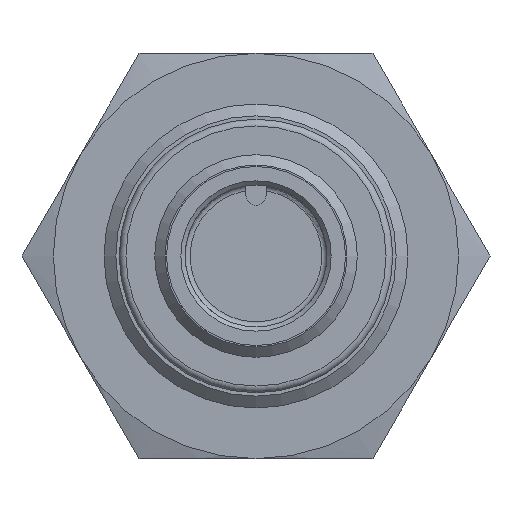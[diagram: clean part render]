
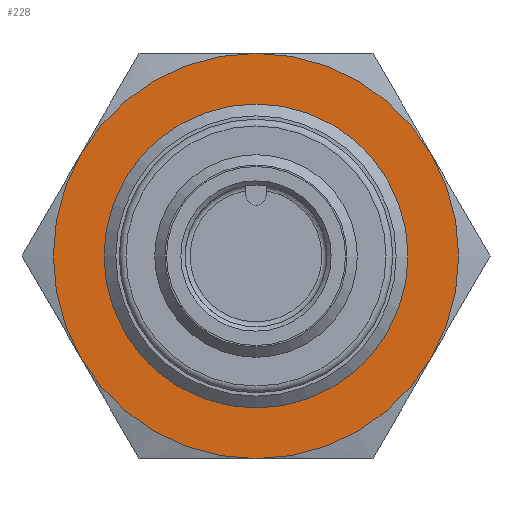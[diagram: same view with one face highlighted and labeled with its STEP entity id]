
A CAD part, left-side view. The second image highlights one B-rep face of the part: STEP entity #228.
In plain terms, the highlighted planar face has unit normal (-1, 0, 0).
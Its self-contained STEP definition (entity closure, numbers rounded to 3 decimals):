
#228 = ADVANCED_FACE( '', ( #369, #370 ), #371, .F. );
#369 = FACE_OUTER_BOUND( '', #522, .T. );
#370 = FACE_BOUND( '', #523, .T. );
#371 = PLANE( '', #524 );
#522 = EDGE_LOOP( '', ( #819, #820, #821, #822, #823, #824 ) );
#523 = EDGE_LOOP( '', ( #825 ) );
#524 = AXIS2_PLACEMENT_3D( '', #826, #827, #828 );
#819 = ORIENTED_EDGE( '', *, *, #979, .F. );
#820 = ORIENTED_EDGE( '', *, *, #980, .F. );
#821 = ORIENTED_EDGE( '', *, *, #981, .F. );
#822 = ORIENTED_EDGE( '', *, *, #977, .F. );
#823 = ORIENTED_EDGE( '', *, *, #975, .F. );
#824 = ORIENTED_EDGE( '', *, *, #976, .F. );
#825 = ORIENTED_EDGE( '', *, *, #967, .T. );
#826 = CARTESIAN_POINT( '', ( 0., 0., 0. ) );
#827 = DIRECTION( '', ( 1., 0., 0. ) );
#828 = DIRECTION( '', ( 0., 0., -1. ) );
#967 = EDGE_CURVE( '', #1113, #1113, #1114, .T. );
#975 = EDGE_CURVE( '', #1086, #1104, #1125, .T. );
#976 = EDGE_CURVE( '', #1095, #1086, #1126, .T. );
#977 = EDGE_CURVE( '', #1104, #1127, #1128, .T. );
#979 = EDGE_CURVE( '', #1130, #1095, #1131, .T. );
#980 = EDGE_CURVE( '', #1132, #1130, #1133, .T. );
#981 = EDGE_CURVE( '', #1127, #1132, #1134, .T. );
#1086 = VERTEX_POINT( '', #1537 );
#1095 = VERTEX_POINT( '', #1567 );
#1104 = VERTEX_POINT( '', #1597 );
#1113 = VERTEX_POINT( '', #1616 );
#1114 = CIRCLE( '', #1617, 9. );
#1125 = CIRCLE( '', #1633, 12. );
#1126 = CIRCLE( '', #1634, 12. );
#1127 = VERTEX_POINT( '', #1635 );
#1128 = CIRCLE( '', #1636, 12. );
#1130 = VERTEX_POINT( '', #1643 );
#1131 = CIRCLE( '', #1644, 12. );
#1132 = VERTEX_POINT( '', #1645 );
#1133 = CIRCLE( '', #1646, 12. );
#1134 = CIRCLE( '', #1647, 12. );
#1537 = CARTESIAN_POINT( '', ( 0., 0., 12. ) );
#1567 = CARTESIAN_POINT( '', ( 0., 10.392, 6. ) );
#1597 = CARTESIAN_POINT( '', ( 0., -10.392, 6. ) );
#1616 = CARTESIAN_POINT( '', ( 0., 0., -9. ) );
#1617 = AXIS2_PLACEMENT_3D( '', #1815, #1816, #1817 );
#1633 = AXIS2_PLACEMENT_3D( '', #1836, #1837, #1838 );
#1634 = AXIS2_PLACEMENT_3D( '', #1839, #1840, #1841 );
#1635 = CARTESIAN_POINT( '', ( 0., -10.392, -6. ) );
#1636 = AXIS2_PLACEMENT_3D( '', #1842, #1843, #1844 );
#1643 = CARTESIAN_POINT( '', ( 0., 10.392, -6. ) );
#1644 = AXIS2_PLACEMENT_3D( '', #1845, #1846, #1847 );
#1645 = CARTESIAN_POINT( '', ( 0., 0., -12. ) );
#1646 = AXIS2_PLACEMENT_3D( '', #1848, #1849, #1850 );
#1647 = AXIS2_PLACEMENT_3D( '', #1851, #1852, #1853 );
#1815 = CARTESIAN_POINT( '', ( 0., 0., 0. ) );
#1816 = DIRECTION( '', ( 1., 0., 0. ) );
#1817 = DIRECTION( '', ( 0., 0., -1. ) );
#1836 = CARTESIAN_POINT( '', ( 0., 0., 0. ) );
#1837 = DIRECTION( '', ( 1., 0., 0. ) );
#1838 = DIRECTION( '', ( 0., 0., -1. ) );
#1839 = CARTESIAN_POINT( '', ( 0., 0., 0. ) );
#1840 = DIRECTION( '', ( 1., 0., 0. ) );
#1841 = DIRECTION( '', ( 0., 0., -1. ) );
#1842 = CARTESIAN_POINT( '', ( 0., 0., 0. ) );
#1843 = DIRECTION( '', ( 1., 0., 0. ) );
#1844 = DIRECTION( '', ( 0., 0., -1. ) );
#1845 = CARTESIAN_POINT( '', ( 0., 0., 0. ) );
#1846 = DIRECTION( '', ( 1., 0., 0. ) );
#1847 = DIRECTION( '', ( 0., 0., -1. ) );
#1848 = CARTESIAN_POINT( '', ( 0., 0., 0. ) );
#1849 = DIRECTION( '', ( 1., 0., 0. ) );
#1850 = DIRECTION( '', ( 0., 0., -1. ) );
#1851 = CARTESIAN_POINT( '', ( 0., 0., 0. ) );
#1852 = DIRECTION( '', ( 1., 0., 0. ) );
#1853 = DIRECTION( '', ( 0., 0., -1. ) );
